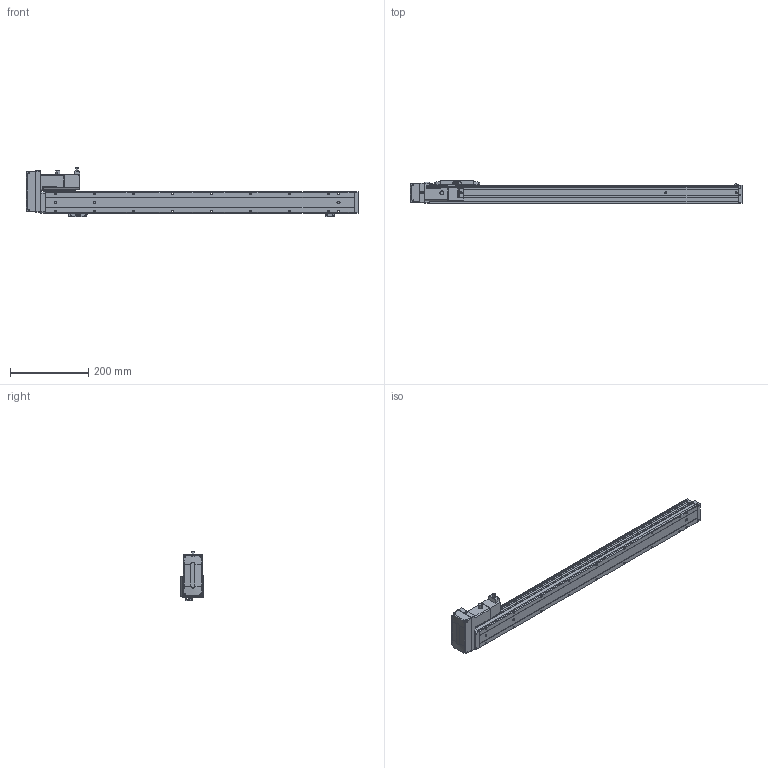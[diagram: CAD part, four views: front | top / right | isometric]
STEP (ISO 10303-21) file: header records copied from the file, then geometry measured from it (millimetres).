
FILE_DESCRIPTION (( 'STEP AP203' ), '1' );
FILE_NAME ('CTH5-L10-S650-BL-C10(¼ò).STEP', '2023-02-04T02:14:25', ( '' ), ( '' ), 'SwSTEP 2.0', 'SolidWorks 2018', '' );
FILE_SCHEMA (( 'CONFIG_CONTROL_DESIGN' ));
Length unit declared in the file: millimetre
Products named in the file (21): CTH100W假蚾啣; 内六角圆柱头螺钉M3-2; CTH5覜茼え; CTH5耜蚾蟀諉啣(潠); CTH5綴耜啣; 葩璃 蚾饜极13^CTH8-L10-S50-BM-C40(潠)1; PM-Y45; hex nuts, style 1-grades ab gb_GB_FASTENER_NUT_SNAB1 M3-N; CTH嫖萇羲壽假蚾啣; T10-p1; CTH5耜晚蹟隊; 100W萇儂; CTH5菁釱-L790; CTH5耜蚾欶; CTH5-L10-S650-BL-C10(潠); CTH5ヶ耜啣(潠); M3｡｣; 嫖萇羲壽郪磁1; CTH5賑怢-2; CTH5-BL-T10_body5; CTH5耜晚蹟隊-1
Assembly tree (35 placements, depth 3):
  CTH5-L10-S650-BL-C10(潠)
    CTH5綴耜啣
    CTH5賑怢-2
    CTH5ヶ耜啣(潠)
    CTH5菁釱-L790
    CTH5耜晚蹟隊  x2
    CTH5覜茼え
    CTH5耜晚蹟隊-1  x3
    CTH5耜蚾蟀諉啣(潠)
    CTH5耜蚾欶
      CTH5-BL-T10_body5
    100W萇儂
      T10-p1
    CTH100W假蚾啣
    葩璃 蚾饜极13^CTH8-L10-S50-BM-C40(潠)1  x2
      CTH嫖萇羲壽假蚾啣
      PM-Y45
      内六角圆柱头螺钉M3-2
      M3｡｣
      hex nuts, style 1-grades ab gb_GB_FASTENER_NUT_SNAB1 M3-N
    嫖萇羲壽郪磁1
      CTH嫖萇羲壽假蚾啣
      PM-Y45
      M3｡｣  x2
      内六角圆柱头螺钉M3-2  x2
      hex nuts, style 1-grades ab gb_GB_FASTENER_NUT_SNAB1 M3-N  x2
Bounding box: 850 x 60 x 126.31 mm (x, y, z)
Volume: 2074947.2 mm3; surface area: 291546.9 mm2
Topology: 38 solids, 38 shells, 1620 faces, 4077 edges, 2628 vertices
Faces by surface type: plane 881, cylinder 476, cone 207, torus 38, bspline 18
Entity records: 38130 total; most frequent: CARTESIAN_POINT 7089, DIRECTION 6059, ORIENTED_EDGE 5826, EDGE_CURVE 2913, AXIS2_PLACEMENT_3D 2093, LINE 1873, VECTOR 1873, VERTEX_POINT 1872
